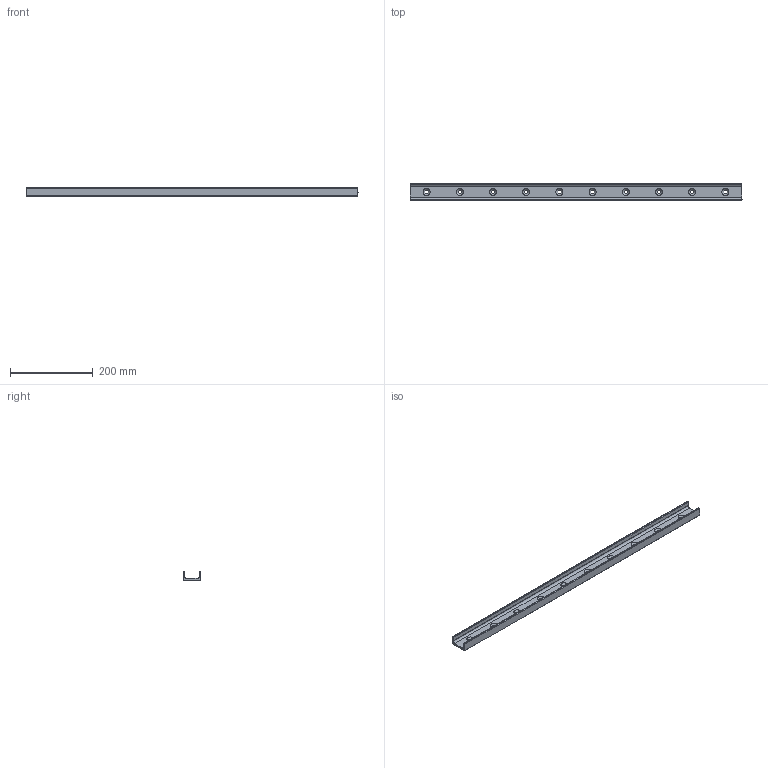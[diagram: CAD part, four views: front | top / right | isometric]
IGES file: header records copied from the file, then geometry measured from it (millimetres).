
Start section: SolidWorks IGES file using analytic representation for surfaces
Global section: file name: C:\Users\IanO\Desktop\43\L1943.ULV43_v2_20180121_IGES\L1943.ULV43-0800.igs; native system: SolidWorks 2017; preprocessor: SolidWorks 2017; author: IanO; date: 190121.085938; units: millimetre
Bounding box: 800 x 43 x 21 mm (x, y, z)
Surface area: 124599.1 mm2 (no closed solid volume)
Topology: 0 solids, 0 shells, 66 faces, 1094 edges, 1094 vertices
Faces by surface type: revolution 53, bspline 13
